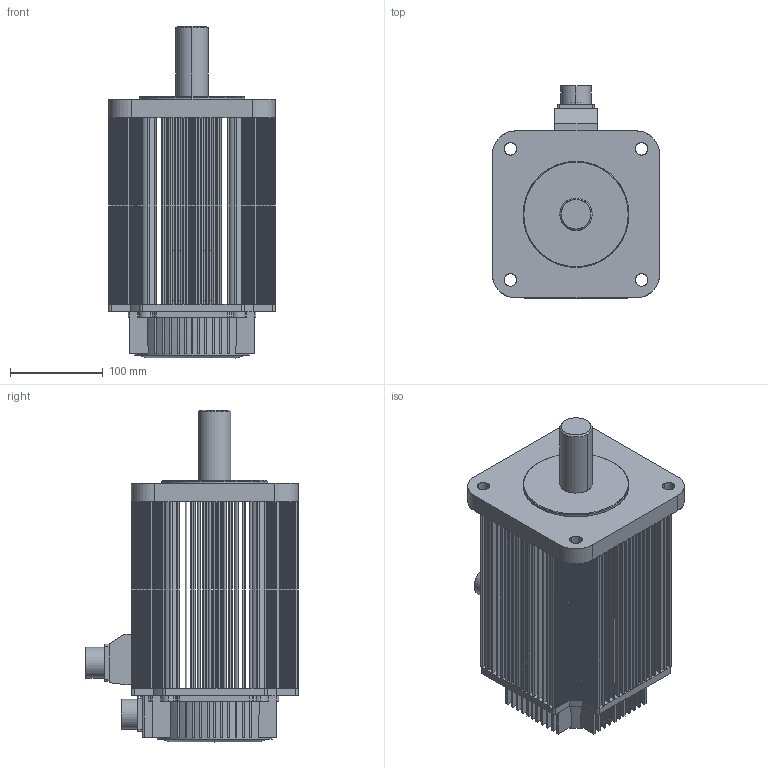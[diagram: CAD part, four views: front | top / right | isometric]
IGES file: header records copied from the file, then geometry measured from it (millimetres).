
Start section: SolidWorks IGES file using analytic representation for surfaces
Global section: file name: H:\estun\zhangjian\电机外观文件（solidworks2009 零件 文件）\IGS\EMG-50A.IGS; native system: SolidWorks 2009; preprocessor: SolidWorks 2009; author: Administrator; date: 100804.094911; units: millimetre
Bounding box: 180 x 229 x 358 mm (x, y, z)
Surface area: 415554.9 mm2 (no closed solid volume)
Topology: 0 solids, 0 shells, 1195 faces, 12046 edges, 12046 vertices
Faces by surface type: bspline 715, revolution 480
